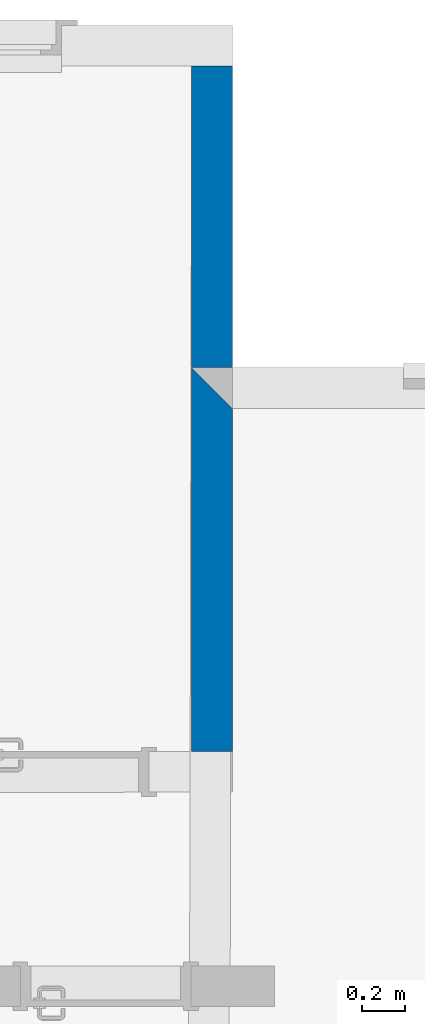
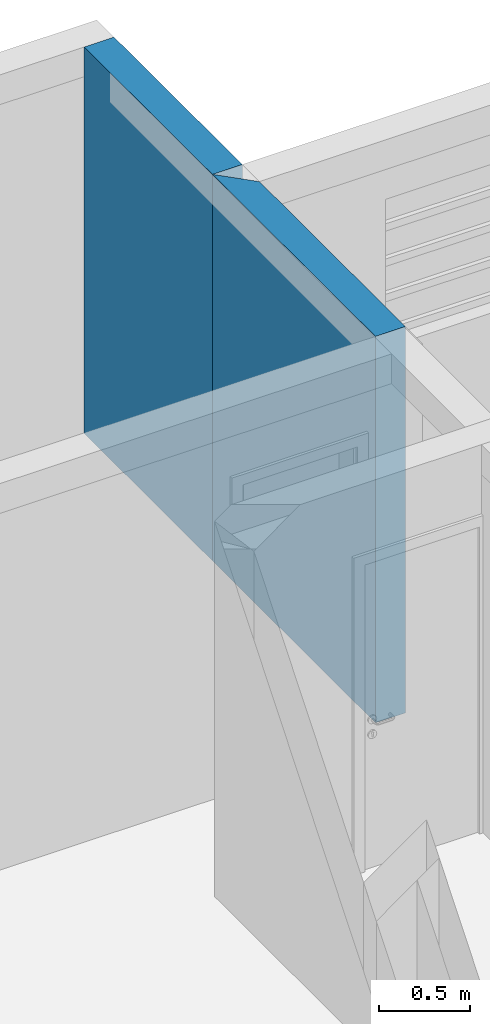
# One storey, part 39 of 43: 2 walls.
"""IFC2X3 building model written with IfcOpenShell, lengths in millimetres."""

import ifcopenshell
import ifcopenshell.guid

model = None  # the IFC model being written
_history = None  # IfcOwnerHistory: only IFC2X3 demands one
_inside = {}  # id of a spatial element -> (the spatial element, [elements in it])
_under = {}  # id of a project, library or spatial element -> (it, [spatial elements below it])
_declared = {}  # id of a project -> (the project, [libraries it declares])
_typed = {}  # id of a type object -> (the type object, [elements of that type])
_made_of = {}  # id of a material, layer set ... -> (it, [elements and type objects made of it])


def new_model(schema):
    """Start an empty IFC model of exactly this schema.

    Asked for "IFC4X3", IfcOpenShell would pick the latest addendum, in which some entities
    have other attributes; the version numbers below select the first issue.
    IFC2X3 requires an IfcOwnerHistory on every rooted entity: one is made here for all.
    """
    global model, _history
    if schema == "IFC4X3":
        model = ifcopenshell.file(schema_version=(4, 3, 0, 0))
    else:
        model = ifcopenshell.file(schema=schema)
    _inside.clear()
    _under.clear()
    _declared.clear()
    _typed.clear()
    _made_of.clear()
    _history = None
    if model.schema == "IFC2X3":
        org = make("IfcOrganization", Name="unknown")
        user = make(
            "IfcPersonAndOrganization",
            ThePerson=make("IfcPerson", FamilyName="unknown"),
            TheOrganization=org,
        )
        app = make(
            "IfcApplication",
            ApplicationDeveloper=org,
            Version="unknown",
            ApplicationFullName="unknown",
            ApplicationIdentifier="unknown",
        )
        _history = make(
            "IfcOwnerHistory",
            OwningUser=user,
            OwningApplication=app,
            ChangeAction="ADDED",
            CreationDate=0,
        )
    return model


def make(cls, **values):
    """One entity of the class cls with the attributes given. An attribute that is None is left unset."""
    return model.create_entity(
        cls, **{name: value for name, value in values.items() if value is not None}
    )


def entity(cls, *values):
    """Any entity or typed value of the class cls, its attributes in the order of the schema. None: left unset."""
    e = model.create_entity(cls)
    for i, value in enumerate(values):
        if value is not None:
            e[i] = value
    return e


def rooted(cls, **values):
    """An entity with a GlobalId (a new one), such as an element, a storey or a relation."""
    return make(cls, GlobalId=ifcopenshell.guid.new(), OwnerHistory=_history, **values)


def si_unit(unit_type, name, prefix=None):
    """IfcSIUnit, for example si_unit("LENGTHUNIT", "METRE", prefix="MILLI")."""
    return make("IfcSIUnit", UnitType=unit_type, Prefix=prefix, Name=name)


def converted_unit(unit_type, name, factor, base, dimensions=None, offset=None):
    """IfcConversionBasedUnit, such as the inch: factor (a typed value) times the base unit."""
    return make(
        "IfcConversionBasedUnit"
        if offset is None
        else "IfcConversionBasedUnitWithOffset",
        ConversionOffset=offset,
        Dimensions=None
        if dimensions is None
        else entity("IfcDimensionalExponents", *dimensions),
        UnitType=unit_type,
        Name=name,
        ConversionFactor=make(
            "IfcMeasureWithUnit", ValueComponent=factor, UnitComponent=base
        ),
    )


def derived_unit(unit_type, elements):
    """IfcDerivedUnit: a product of units, each with its exponent."""
    return make(
        "IfcDerivedUnit",
        Elements=[
            make("IfcDerivedUnitElement", Unit=unit, Exponent=power)
            for unit, power in elements
        ],
        UnitType=unit_type,
    )


def money_unit(currency):
    """IfcMonetaryUnit."""
    return make("IfcMonetaryUnit", Currency=currency)


def assignment(units):
    """IfcUnitAssignment: the units of a project."""
    return None if units is None else make("IfcUnitAssignment", Units=units)


def point(xyz):
    """IfcCartesianPoint."""
    return None if xyz is None else make("IfcCartesianPoint", Coordinates=xyz)


def direction(xyz):
    """IfcDirection."""
    return None if xyz is None else make("IfcDirection", DirectionRatios=xyz)


def frame(location, z_axis=None, x_axis=None):
    """IfcAxis2Placement3D, a coordinate frame: its origin and axes. An axis left out is left unset."""
    return make(
        "IfcAxis2Placement3D",
        Location=point(location),
        Axis=direction(z_axis),
        RefDirection=direction(x_axis),
    )


def origin_with_axes():
    """The frame at (0, 0, 0) with the z axis (0, 0, 1) and the x axis (1, 0, 0) written out."""
    return frame((0.0, 0.0, 0.0), z_axis=(0.0, 0.0, 1.0), x_axis=(1.0, 0.0, 0.0))


def place(relative_to, where):
    """IfcLocalPlacement: puts the frame where relative to a parent placement (None: the world)."""
    return make(
        "IfcLocalPlacement", PlacementRelTo=relative_to, RelativePlacement=where
    )


def context(
    kind, dimensions, precision=None, world=None, true_north=None, identifier=None
):
    """IfcGeometricRepresentationContext, for example the 3D "Model" context."""
    return make(
        "IfcGeometricRepresentationContext",
        ContextIdentifier=identifier,
        ContextType=kind,
        CoordinateSpaceDimension=dimensions,
        Precision=precision,
        WorldCoordinateSystem=world,
        TrueNorth=true_north,
    )


def subcontext(parent, identifier, kind, view, scale=None):
    """IfcGeometricRepresentationSubContext, for example "Body" below "Model"."""
    return make(
        "IfcGeometricRepresentationSubContext",
        ContextIdentifier=identifier,
        ContextType=kind,
        ParentContext=parent,
        TargetScale=scale,
        TargetView=view,
    )


def project(units=None, contexts=None):
    """IfcProject with its units and contexts."""
    return rooted(
        "IfcProject",
        Name="project",
        RepresentationContexts=contexts,
        UnitsInContext=assignment(units),
    )


def spatial(cls, under=None, at=None, **own):
    """A site, building, storey or space (cls), placed at a placement, below another one or the project."""
    s = rooted(cls, ObjectPlacement=at, **own)
    if under is not None:
        _under.setdefault(under.id(), (under, []))[1].append(s)
    return s


def polyline(points):
    """IfcPolyline through the points."""
    return make("IfcPolyline", Points=[point(p) for p in points])


def outline(outer, holes=None, kind="AREA"):
    """IfcArbitraryClosedProfileDef: a profile drawn as a closed curve; with holes, ...WithVoids."""
    if holes is None:
        return make("IfcArbitraryClosedProfileDef", ProfileType=kind, OuterCurve=outer)
    return make(
        "IfcArbitraryProfileDefWithVoids",
        ProfileType=kind,
        OuterCurve=outer,
        InnerCurves=holes,
    )


def extrude(swept, where, along, depth):
    """IfcExtrudedAreaSolid: the profile swept, set in the frame where, extruded along a direction by depth."""
    return make(
        "IfcExtrudedAreaSolid",
        SweptArea=swept,
        Position=where,
        ExtrudedDirection=direction(along),
        Depth=depth,
    )


def shape(context_of_items, identifier, shape_type, items):
    """IfcShapeRepresentation: the items that make up one representation, for example the "Body"."""
    return make(
        "IfcShapeRepresentation",
        ContextOfItems=context_of_items,
        RepresentationIdentifier=identifier,
        RepresentationType=shape_type,
        Items=items,
    )


def material(Name=None, Category=None):
    """IfcMaterial."""
    return make("IfcMaterial", Name=Name, Category=Category)


def layer(
    of_material, thickness, ventilated=None, Name=None, Category=None, Priority=None
):
    """IfcMaterialLayer: one layer of a wall or slab, of a material (None: an air gap)."""
    return make(
        "IfcMaterialLayer",
        Material=of_material,
        LayerThickness=thickness,
        IsVentilated=ventilated,
        Name=Name,
        Category=Category,
        Priority=Priority,
    )


def layer_set(layers, Name=None):
    """IfcMaterialLayerSet."""
    return make("IfcMaterialLayerSet", MaterialLayers=layers, LayerSetName=Name)


def layer_usage(for_layer_set, set_direction, sense, offset, extent=None):
    """IfcMaterialLayerSetUsage: how a layer set lies in its element."""
    return make(
        "IfcMaterialLayerSetUsage",
        ForLayerSet=for_layer_set,
        LayerSetDirection=set_direction,
        DirectionSense=sense,
        OffsetFromReferenceLine=offset,
        ReferenceExtent=extent,
    )


def made_of(thing, what):
    """Note that an element or type object is made of a material, layer set ...; save() writes the relation."""
    if what is not None:
        _made_of.setdefault(what.id(), (what, []))[1].append(thing)
    return thing


def type_object(cls, material=None, **own):
    """A type object (cls), such as IfcWallType, which elements share."""
    return made_of(rooted(cls, **own), material)


def element(
    cls,
    number,
    at=None,
    inside=None,
    cuts=None,
    type_object=None,
    material=None,
    context=None,
    identifier="Body",
    shape_type=None,
    held_by="IfcProductDefinitionShape",
    body=None,
    shapes=None,
    **own,
):
    """One element of the class cls, such as IfcWall. Its Tag is "e" and its number.

    at: its placement. inside: the storey or other place that contains it. cuts: it is an
    opening in that element (IfcRelVoidsElement). A single representation is given by context,
    identifier, shape_type and body (its items); several are given by shapes. held_by: the class
    of the entity that holds the representations. save() writes the other relations.
    """
    e = rooted(cls, Tag="e%d" % number, ObjectPlacement=at, **own)
    if body is not None:
        shapes = [shape(context, identifier, shape_type, body)]
    if shapes is not None:
        e.Representation = make(held_by, Representations=shapes)
    if inside is not None:
        _inside.setdefault(inside.id(), (inside, []))[1].append(e)
    if cuts is not None:
        rooted(
            "IfcRelVoidsElement", RelatingBuildingElement=cuts, RelatedOpeningElement=e
        )
    if type_object is not None:
        _typed.setdefault(type_object.id(), (type_object, []))[1].append(e)
    return made_of(e, material)


def aggregate(whole, parts):
    """IfcRelAggregates: a whole, such as a stair, and the parts it consists of."""
    return rooted("IfcRelAggregates", RelatingObject=whole, RelatedObjects=parts)


def save(model, path):
    """Write the relations noted so far, then the file.

    IfcRelAggregates (storeys below a building ...), IfcRelContainedInSpatialStructure (elements
    in a storey), IfcRelDefinesByType, IfcRelAssociatesMaterial and IfcRelDeclares: one each for
    every whole, place, type object, material and project.
    """
    for whole, parts in _under.values():
        aggregate(whole, parts)
    for where, things in _inside.values():
        rooted(
            "IfcRelContainedInSpatialStructure",
            RelatedElements=things,
            RelatingStructure=where,
        )
    for kind, things in _typed.values():
        rooted("IfcRelDefinesByType", RelatedObjects=things, RelatingType=kind)
    for what, things in _made_of.values():
        rooted("IfcRelAssociatesMaterial", RelatedObjects=things, RelatingMaterial=what)
    for by, libraries in _declared.values():
        rooted("IfcRelDeclares", RelatingContext=by, RelatedDefinitions=libraries)
    model.write(path)


model = new_model("IFC2X3")

# Units and contexts
model_context = context("Model", 3, precision=0.01, world=origin_with_axes(), true_north=direction((0.0, 1.0)))
body_context = subcontext(model_context, "Body", "Model", "MODEL_VIEW")
ifc_project = project(units=[si_unit("LENGTHUNIT", "METRE", prefix="MILLI"), si_unit("AREAUNIT", "SQUARE_METRE"), si_unit("VOLUMEUNIT", "CUBIC_METRE"), converted_unit("PLANEANGLEUNIT", "DEGREE", entity("IfcPlaneAngleMeasure", 0.0174532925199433), si_unit("PLANEANGLEUNIT", "RADIAN"), dimensions=[0, 0, 0, 0, 0, 0, 0]), money_unit("USD"), converted_unit("TIMEUNIT", "Year", entity("IfcTimeMeasure", 31557600.0), si_unit("TIMEUNIT", "SECOND"), dimensions=[0, 0, 1, 0, 0, 0, 0]), si_unit("MASSUNIT", "GRAM", prefix="KILO"), si_unit("THERMODYNAMICTEMPERATUREUNIT", "DEGREE_CELSIUS"), si_unit("LUMINOUSINTENSITYUNIT", "LUMEN"), si_unit("ENERGYUNIT", "JOULE", prefix="MEGA"), derived_unit("THERMALCONDUCTANCEUNIT", [(si_unit("POWERUNIT", "WATT"), 1), (si_unit("LENGTHUNIT", "METRE"), -1), (si_unit("THERMODYNAMICTEMPERATUREUNIT", "KELVIN"), -1)]), derived_unit("SPECIFICHEATCAPACITYUNIT", [(si_unit("ENERGYUNIT", "JOULE"), 1), (si_unit("MASSUNIT", "GRAM", prefix="KILO"), -1), (si_unit("THERMODYNAMICTEMPERATUREUNIT", "KELVIN"), -1)]), derived_unit("MASSDENSITYUNIT", [(si_unit("MASSUNIT", "GRAM", prefix="KILO"), 1), (si_unit("VOLUMEUNIT", "CUBIC_METRE"), -1)])], contexts=[model_context])

# Site, building, storey
site_placement = place(None, origin_with_axes())
site = spatial("IfcSite", under=ifc_project, at=site_placement, Name="Local", CompositionType="ELEMENT")
building_placement = place(site_placement, origin_with_axes())
building = spatial("IfcBuilding", under=site, at=building_placement, Name="Construção", CompositionType="ELEMENT")
storey_placement = place(building_placement, origin_with_axes())
storey = spatial("IfcBuildingStorey", under=building, at=storey_placement, Name="Pavimento Tipo", CompositionType="ELEMENT", Elevation=0.0)

# Walls
ifc_material = material(Name="Concreto - Estrutural")
ifc_layer = layer(ifc_material, 190.0, ventilated="UNKNOWN")
ifc_layer_set = layer_set([ifc_layer], Name="Concreto - Estrutural 190")
ifc_layer_usage_1 = layer_usage(ifc_layer_set, "AXIS2", "NEGATIVE", 190.0)
wall_type = type_object("IfcWallType", Name="Concreto - Estrutural 190", PredefinedType="NOTDEFINED")
wall_1_placement = place(storey_placement, frame((70079.46944943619, 8845.364932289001, 0.0), z_axis=(0.0, 0.0, 1.0), x_axis=(1.902976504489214e-05, 0.9999999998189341, 0.0)))
element("IfcWallStandardCase", 1, at=wall_1_placement, inside=storey, type_object=wall_type, material=ifc_layer_usage_1, Name="Apartamento 1 - Parede-078", context=body_context, shape_type="SweptSolid", body=[
    extrude(outline(polyline([(190.0000110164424, 0.0), (1797.138596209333, 0.0), (1987.138596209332, 190.0000000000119), (189.9353097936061, 190.0000000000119), (190.0000110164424, 0.0)])), origin_with_axes(), (0.0, 0.0, 1.0), 2600.0),
])
ifc_layer_usage_2 = layer_usage(ifc_layer_set, "AXIS2", "NEGATIVE", 0.0)
wall_2_placement = place(storey_placement, frame((69889.5072642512, 10832.50714379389, 0.0), z_axis=(0.0, 0.0, 1.0), x_axis=(1.902976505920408e-05, 0.9999999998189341, 0.0)))
element("IfcWallStandardCase", 2, at=wall_2_placement, inside=storey, type_object=wall_type, material=ifc_layer_usage_2, Name="Apartamento 1 - Parede-004", context=body_context, shape_type="SweptSolid", body=[
    extrude(outline(polyline([(0.0, -189.9999999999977), (1412.861425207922, -190.0000000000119), (1412.857809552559, 0.0), (0.0, 0.0), (0.0, -189.9999999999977)])), origin_with_axes(), (0.0, 0.0, 1.0), 2600.0),
])

save(model, "model.ifc")
